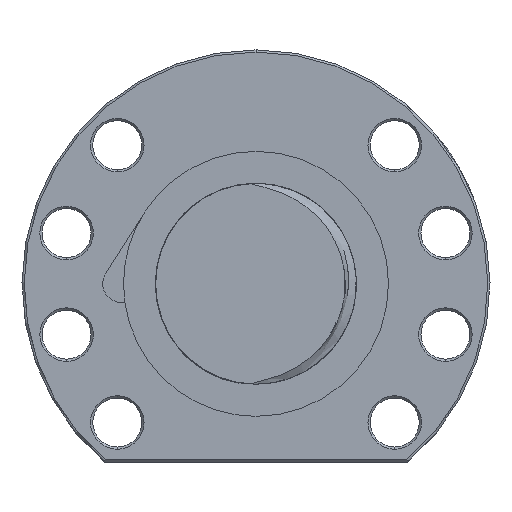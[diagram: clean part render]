
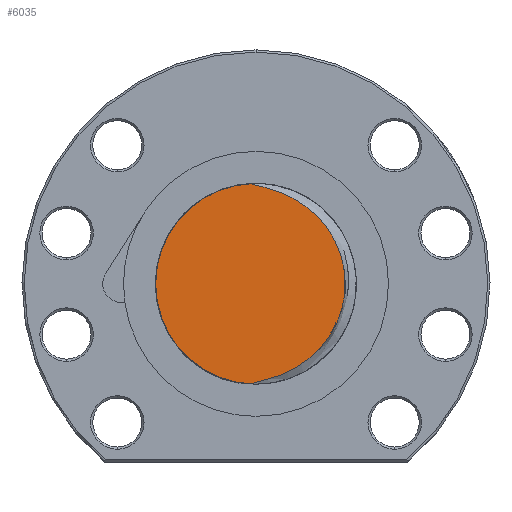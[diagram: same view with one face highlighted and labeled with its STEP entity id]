
A CAD part, left-side view. The second image highlights one B-rep face of the part: STEP entity #6035.
In plain terms, the highlighted planar face has unit normal (-1, 0, 0).
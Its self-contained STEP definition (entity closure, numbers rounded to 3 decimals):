
#387 = VERTEX_POINT ( 'NONE', #32398 ) ;
#394 = VERTEX_POINT ( 'NONE', #32701 ) ;
#793 = EDGE_CURVE ( 'NONE', #387, #394, #34509, .T. ) ;
#6035 = ADVANCED_FACE ( 'NONE', ( #27498 ), #27497, .F. ) ;
#6042 = EDGE_LOOP ( 'NONE', ( #6056, #6043 ) ) ;
#6043 = ORIENTED_EDGE ( 'NONE', *, *, #6044, .T. ) ;
#6044 = EDGE_CURVE ( 'NONE', #387, #394, #27526, .T. ) ;
#6056 = ORIENTED_EDGE ( 'NONE', *, *, #793, .F. ) ;
#27496 = AXIS2_PLACEMENT_3D ( 'NONE', #27529, #27528, #27527 ) ;
#27497 = PLANE ( 'NONE',  #27496 ) ;
#27498 = FACE_OUTER_BOUND ( 'NONE', #6042, .T. ) ;
#27499 = CARTESIAN_POINT ( 'NONE',  ( -234., -19.323, -5.596 ) ) ;
#27500 = CARTESIAN_POINT ( 'NONE',  ( -234., -18.911, -6.933 ) ) ;
#27501 = CARTESIAN_POINT ( 'NONE',  ( -234., -18.232, -8.555 ) ) ;
#27502 = CARTESIAN_POINT ( 'NONE',  ( -234., -18.088, -8.876 ) ) ;
#27503 = CARTESIAN_POINT ( 'NONE',  ( -234., -17.783, -9.515 ) ) ;
#27504 = CARTESIAN_POINT ( 'NONE',  ( -234., -17.622, -9.832 ) ) ;
#27505 = CARTESIAN_POINT ( 'NONE',  ( -234., -17.118, -10.765 ) ) ;
#27506 = CARTESIAN_POINT ( 'NONE',  ( -234., -16.754, -11.366 ) ) ;
#27507 = CARTESIAN_POINT ( 'NONE',  ( -234., -15.582, -13.106 ) ) ;
#27508 = CARTESIAN_POINT ( 'NONE',  ( -234., -14.696, -14.185 ) ) ;
#27509 = CARTESIAN_POINT ( 'NONE',  ( -234., -13.208, -15.682 ) ) ;
#27510 = CARTESIAN_POINT ( 'NONE',  ( -234., -12.682, -16.162 ) ) ;
#27511 = CARTESIAN_POINT ( 'NONE',  ( -234., -11.597, -17.065 ) ) ;
#27512 = CARTESIAN_POINT ( 'NONE',  ( -234., -11.037, -17.488 ) ) ;
#27513 = CARTESIAN_POINT ( 'NONE',  ( -234., -9.307, -18.678 ) ) ;
#27514 = CARTESIAN_POINT ( 'NONE',  ( -234., -8.088, -19.364 ) ) ;
#27515 = CARTESIAN_POINT ( 'NONE',  ( -234., -6.166, -20.244 ) ) ;
#27516 = CARTESIAN_POINT ( 'NONE',  ( -234., -5.508, -20.512 ) ) ;
#27517 = CARTESIAN_POINT ( 'NONE',  ( -234., -4.18, -20.996 ) ) ;
#27518 = CARTESIAN_POINT ( 'NONE',  ( -234., -3.508, -21.212 ) ) ;
#27519 = CARTESIAN_POINT ( 'NONE',  ( -234., -2.153, -21.603 ) ) ;
#27520 = CARTESIAN_POINT ( 'NONE',  ( -234., -1.469, -21.777 ) ) ;
#27521 = CARTESIAN_POINT ( 'NONE',  ( -234., -0.439, -22.026 ) ) ;
#27522 = CARTESIAN_POINT ( 'NONE',  ( -234., -0.096, -22.106 ) ) ;
#27523 = CARTESIAN_POINT ( 'NONE',  ( -234., 0.59, -22.274 ) ) ;
#27524 = CARTESIAN_POINT ( 'NONE',  ( -234., 0.933, -22.359 ) ) ;
#27525 = CARTESIAN_POINT ( 'NONE',  ( -234., 1.269, -22.464 ) ) ;
#27526 = B_SPLINE_CURVE_WITH_KNOTS ( 'NONE', 3,
 ( #27525, #27524, #27523, #27522, #27521, #27520, #27519, #27518, #27517, #27516, #27515, #27514, #27513, #27512, #27511, #27510, #27509, #27508, #27507, #27506, #27505, #27504, #27503, #27502, #27501, #27500, #27499, #27574, #27573, #27572, #27571, #27570, #27569, #27568, #27567, #27566, #27565, #27564, #27563, #27562, #27561, #27560, #27559, #27558, #27557, #27556, #27555, #27554, #27553, #27552, #27551, #27550, #27549, #27548, #27547, #27546, #27545, #27544, #27543, #27542, #27541, #27540, #27539, #27538 ),
 .UNSPECIFIED., .F., .F.,
 ( 4, 2, 2, 2, 2, 2, 2, 2, 2, 2, 2, 2, 2, 2, 2, 2, 2, 2, 2, 2, 2, 2, 2, 2, 2, 2, 2, 2, 2, 2, 2, 4 ),
 ( 0.001, 0.002, 0.003, 0.005, 0.007, 0.009, 0.013, 0.016, 0.018, 0.022, 0.024, 0.025, 0.026, 0.03, 0.031, 0.032, 0.035, 0.039, 0.04, 0.041, 0.043, 0.045, 0.046, 0.047, 0.051, 0.054, 0.056, 0.06, 0.064, 0.066, 0.067, 0.068 ),
 .UNSPECIFIED. ) ;
#27527 = DIRECTION ( 'NONE',  ( 0., 0., -1. ) ) ;
#27528 = DIRECTION ( 'NONE',  ( 1., 0., 0. ) ) ;
#27529 = CARTESIAN_POINT ( 'NONE',  ( -234., 0., 0. ) ) ;
#27538 = CARTESIAN_POINT ( 'NONE',  ( -234., 1.269, 22.464 ) ) ;
#27539 = CARTESIAN_POINT ( 'NONE',  ( -234., 0.931, 22.359 ) ) ;
#27540 = CARTESIAN_POINT ( 'NONE',  ( -234., 0.588, 22.273 ) ) ;
#27541 = CARTESIAN_POINT ( 'NONE',  ( -234., -0.1, 22.105 ) ) ;
#27542 = CARTESIAN_POINT ( 'NONE',  ( -234., -0.445, 22.024 ) ) ;
#27543 = CARTESIAN_POINT ( 'NONE',  ( -234., -1.479, 21.774 ) ) ;
#27544 = CARTESIAN_POINT ( 'NONE',  ( -234., -2.165, 21.6 ) ) ;
#27545 = CARTESIAN_POINT ( 'NONE',  ( -234., -4.205, 21.011 ) ) ;
#27546 = CARTESIAN_POINT ( 'NONE',  ( -234., -5.543, 20.529 ) ) ;
#27547 = CARTESIAN_POINT ( 'NONE',  ( -234., -8.098, 19.358 ) ) ;
#27548 = CARTESIAN_POINT ( 'NONE',  ( -234., -9.321, 18.671 ) ) ;
#27549 = CARTESIAN_POINT ( 'NONE',  ( -234., -11.063, 17.469 ) ) ;
#27550 = CARTESIAN_POINT ( 'NONE',  ( -234., -11.63, 17.039 ) ) ;
#27551 = CARTESIAN_POINT ( 'NONE',  ( -234., -12.712, 16.135 ) ) ;
#27552 = CARTESIAN_POINT ( 'NONE',  ( -234., -13.229, 15.661 ) ) ;
#27553 = CARTESIAN_POINT ( 'NONE',  ( -234., -14.708, 14.171 ) ) ;
#27554 = CARTESIAN_POINT ( 'NONE',  ( -234., -15.598, 13.088 ) ) ;
#27555 = CARTESIAN_POINT ( 'NONE',  ( -234., -16.584, 11.617 ) ) ;
#27556 = CARTESIAN_POINT ( 'NONE',  ( -234., -16.774, 11.317 ) ) ;
#27557 = CARTESIAN_POINT ( 'NONE',  ( -234., -17.138, 10.712 ) ) ;
#27558 = CARTESIAN_POINT ( 'NONE',  ( -234., -17.313, 10.406 ) ) ;
#27559 = CARTESIAN_POINT ( 'NONE',  ( -234., -17.811, 9.478 ) ) ;
#27560 = CARTESIAN_POINT ( 'NONE',  ( -234., -18.112, 8.846 ) ) ;
#27561 = CARTESIAN_POINT ( 'NONE',  ( -234., -18.649, 7.556 ) ) ;
#27562 = CARTESIAN_POINT ( 'NONE',  ( -234., -18.887, 6.898 ) ) ;
#27563 = CARTESIAN_POINT ( 'NONE',  ( -234., -19.195, 5.89 ) ) ;
#27564 = CARTESIAN_POINT ( 'NONE',  ( -234., -19.29, 5.551 ) ) ;
#27565 = CARTESIAN_POINT ( 'NONE',  ( -234., -19.463, 4.866 ) ) ;
#27566 = CARTESIAN_POINT ( 'NONE',  ( -234., -19.541, 4.519 ) ) ;
#27567 = CARTESIAN_POINT ( 'NONE',  ( -234., -19.889, 2.783 ) ) ;
#27568 = CARTESIAN_POINT ( 'NONE',  ( -234., -20.026, 1.387 ) ) ;
#27569 = CARTESIAN_POINT ( 'NONE',  ( -234., -20.024, -0.716 ) ) ;
#27570 = CARTESIAN_POINT ( 'NONE',  ( -234., -19.989, -1.418 ) ) ;
#27571 = CARTESIAN_POINT ( 'NONE',  ( -234., -19.883, -2.474 ) ) ;
#27572 = CARTESIAN_POINT ( 'NONE',  ( -234., -19.839, -2.827 ) ) ;
#27573 = CARTESIAN_POINT ( 'NONE',  ( -234., -19.733, -3.527 ) ) ;
#27574 = CARTESIAN_POINT ( 'NONE',  ( -234., -19.672, -3.874 ) ) ;
#32398 = CARTESIAN_POINT ( 'NONE',  ( -234., 1.269, -22.464 ) ) ;
#32701 = CARTESIAN_POINT ( 'NONE',  ( -234., 1.269, 22.464 ) ) ;
#34226 = DIRECTION ( 'NONE',  ( 0., 1., 0. ) ) ;
#34228 = DIRECTION ( 'NONE',  ( 1., 0., 0. ) ) ;
#34230 = CARTESIAN_POINT ( 'NONE',  ( -234., 0., 0. ) ) ;
#34507 = AXIS2_PLACEMENT_3D ( 'NONE', #34230, #34228, #34226 ) ;
#34509 = CIRCLE ( 'NONE', #34507, 22.5 ) ;
